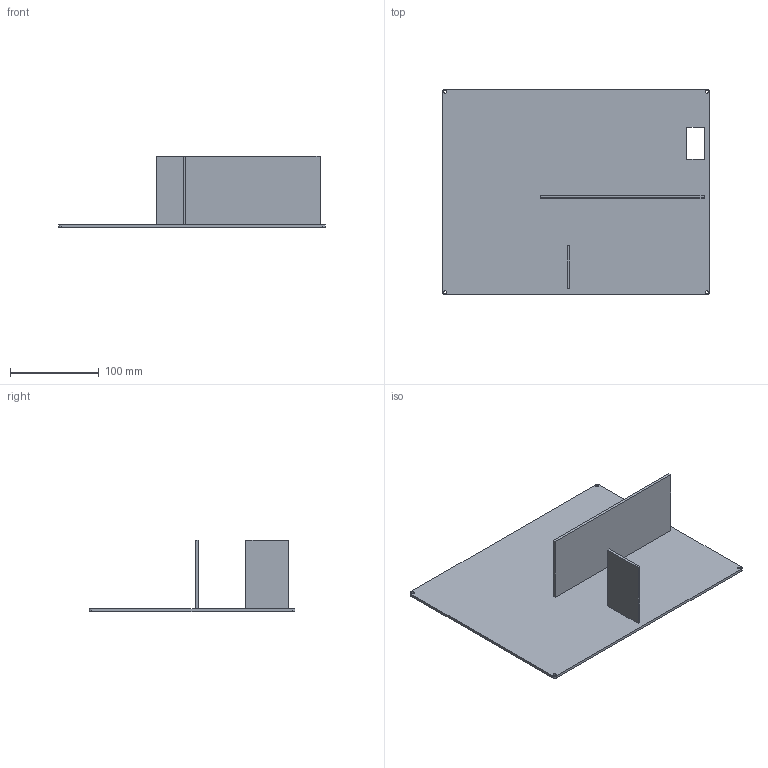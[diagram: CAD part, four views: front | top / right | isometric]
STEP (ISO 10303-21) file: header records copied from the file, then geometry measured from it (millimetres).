
FILE_DESCRIPTION (( 'STEP AP214' ), '1' );
FILE_NAME ('奻裔.STEP', '2025-10-13T06:54:50', ( '' ), ( '' ), 'SwSTEP 2.0', 'SolidWorks 2024', '' );
FILE_SCHEMA (( 'AUTOMOTIVE_DESIGN' ));
Length unit declared in the file: millimetre
Products named in the file (1): 上盖
Bounding box: 300 x 231.69 x 80 mm (x, y, z)
Volume: 259828 mm3; surface area: 177781.6 mm2
Topology: 1 solids, 1 shells, 32 faces, 84 edges, 56 vertices
Faces by surface type: plane 20, cylinder 12
Entity records: 1035 total; most frequent: DIRECTION 174, CARTESIAN_POINT 173, ORIENTED_EDGE 168, EDGE_CURVE 84, VECTOR 60, LINE 60, AXIS2_PLACEMENT_3D 57, VERTEX_POINT 56
